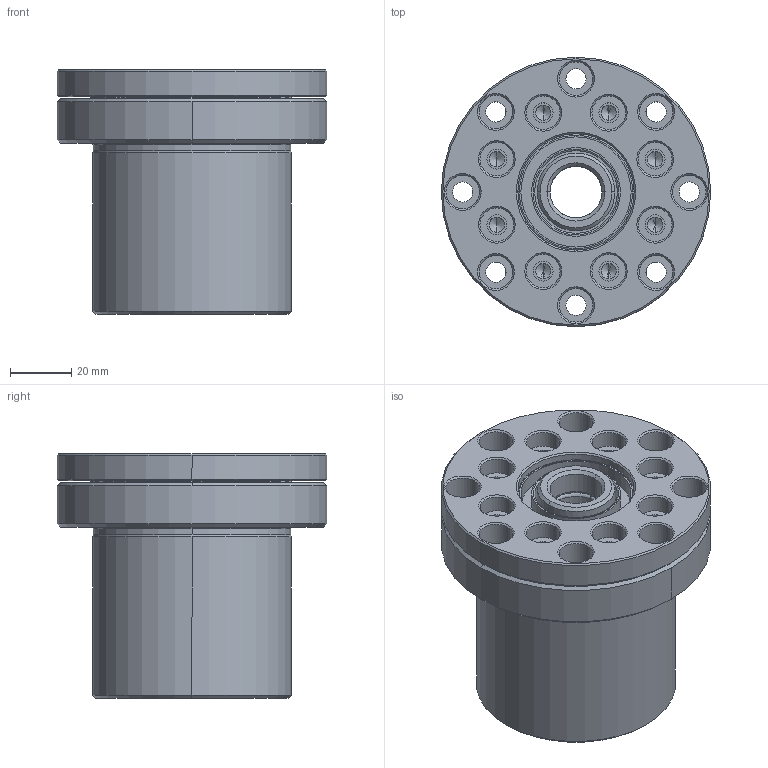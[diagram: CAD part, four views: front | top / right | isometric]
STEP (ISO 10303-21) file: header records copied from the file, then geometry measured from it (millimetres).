
FILE_DESCRIPTION (( 'STEP AP203' ), '1' );
FILE_NAME ('MBK17DFF.STEP', '2010-03-25T23:25:06', ( '' ), ( '' ), 'SwSTEP 2.0', 'SolidWorks 2008', '' );
FILE_SCHEMA (( 'CONFIG_CONTROL_DESIGN' ));
Length unit declared in the file: millimetre
Products named in the file (1): MBK17DFF
Bounding box: 88 x 88 x 80 mm (x, y, z)
Volume: 260505.8 mm3; surface area: 112452.9 mm2
Topology: 72 solids, 72 shells, 593 faces, 1552 edges, 869 vertices
Faces by surface type: cylinder 197, bspline 187, cone 145, plane 62, torus 2
Entity records: 20218 total; most frequent: CARTESIAN_POINT 7384, DIRECTION 2737, ORIENTED_EDGE 2620, EDGE_CURVE 1310, AXIS2_PLACEMENT_3D 1208, VERTEX_POINT 869, CIRCLE 801, EDGE_LOOP 683
